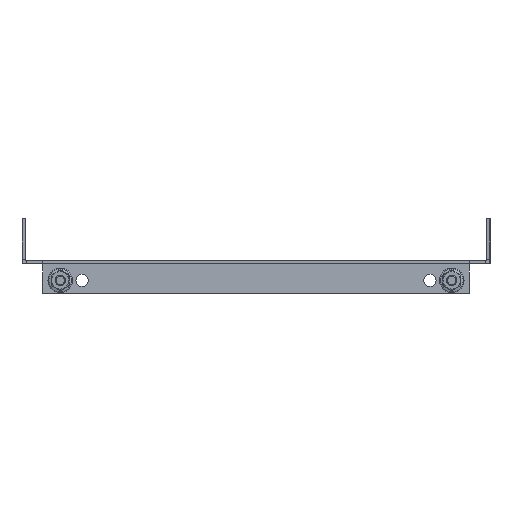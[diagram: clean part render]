
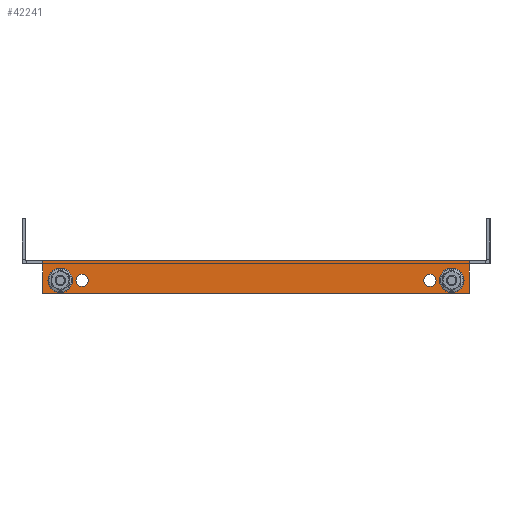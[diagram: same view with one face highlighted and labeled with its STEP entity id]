
A CAD part, left-side view. The second image highlights one B-rep face of the part: STEP entity #42241.
In plain terms, the highlighted planar face has unit normal (-1, 0, 0).
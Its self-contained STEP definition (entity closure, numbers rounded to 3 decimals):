
#28244 = VERTEX_POINT('',#28245);
#28245 = CARTESIAN_POINT('',(-350.,122.5,2.));
#28251 = EDGE_CURVE('',#28252,#28244,#28254,.T.);
#28252 = VERTEX_POINT('',#28253);
#28253 = CARTESIAN_POINT('',(-350.,-122.5,2.));
#28254 = LINE('',#28255,#28256);
#28255 = CARTESIAN_POINT('',(-350.,-132.5,2.));
#28256 = VECTOR('',#28257,1.);
#28257 = DIRECTION('',(-0.,1.,-0.));
#42120 = VERTEX_POINT('',#42121);
#42121 = CARTESIAN_POINT('',(-350.,-122.5,-0.6));
#42136 = EDGE_CURVE('',#42120,#28252,#42137,.T.);
#42137 = LINE('',#42138,#42139);
#42138 = CARTESIAN_POINT('',(-350.,-122.5,-0.6));
#42139 = VECTOR('',#42140,1.);
#42140 = DIRECTION('',(0.,-0.,1.));
#42160 = VERTEX_POINT('',#42161);
#42161 = CARTESIAN_POINT('',(-350.,122.5,-0.6));
#42167 = EDGE_CURVE('',#42160,#28244,#42168,.T.);
#42168 = LINE('',#42169,#42170);
#42169 = CARTESIAN_POINT('',(-350.,122.5,0.));
#42170 = VECTOR('',#42171,1.);
#42171 = DIRECTION('',(0.,0.,1.));
#42183 = EDGE_CURVE('',#42184,#42160,#42186,.T.);
#42184 = VERTEX_POINT('',#42185);
#42185 = CARTESIAN_POINT('',(-350.,122.5,-17.));
#42186 = LINE('',#42187,#42188);
#42187 = CARTESIAN_POINT('',(-350.,122.5,0.));
#42188 = VECTOR('',#42189,1.);
#42189 = DIRECTION('',(0.,-0.,1.));
#42223 = EDGE_CURVE('',#42120,#42224,#42226,.T.);
#42224 = VERTEX_POINT('',#42225);
#42225 = CARTESIAN_POINT('',(-350.,-122.5,-17.));
#42226 = LINE('',#42227,#42228);
#42227 = CARTESIAN_POINT('',(-350.,-122.5,-17.));
#42228 = VECTOR('',#42229,1.);
#42229 = DIRECTION('',(0.,0.,-1.));
#42241 = ADVANCED_FACE('',(#42242,#42262,#42282,#42293,#42304),#42317,
  .T.);
#42242 = FACE_BOUND('',#42243,.T.);
#42243 = EDGE_LOOP('',(#42244,#42255));
#42244 = ORIENTED_EDGE('',*,*,#42245,.F.);
#42245 = EDGE_CURVE('',#42246,#42248,#42250,.T.);
#42246 = VERTEX_POINT('',#42247);
#42247 = CARTESIAN_POINT('',(-350.,-112.5,-13.));
#42248 = VERTEX_POINT('',#42249);
#42249 = CARTESIAN_POINT('',(-350.,-112.5,-6.));
#42250 = CIRCLE('',#42251,3.5);
#42251 = AXIS2_PLACEMENT_3D('',#42252,#42253,#42254);
#42252 = CARTESIAN_POINT('',(-350.,-112.5,-9.5));
#42253 = DIRECTION('',(-1.,0.,0.));
#42254 = DIRECTION('',(0.,0.,-1.));
#42255 = ORIENTED_EDGE('',*,*,#42256,.F.);
#42256 = EDGE_CURVE('',#42248,#42246,#42257,.T.);
#42257 = CIRCLE('',#42258,3.5);
#42258 = AXIS2_PLACEMENT_3D('',#42259,#42260,#42261);
#42259 = CARTESIAN_POINT('',(-350.,-112.5,-9.5));
#42260 = DIRECTION('',(-1.,0.,0.));
#42261 = DIRECTION('',(0.,0.,-1.));
#42262 = FACE_BOUND('',#42263,.T.);
#42263 = EDGE_LOOP('',(#42264,#42275));
#42264 = ORIENTED_EDGE('',*,*,#42265,.F.);
#42265 = EDGE_CURVE('',#42266,#42268,#42270,.T.);
#42266 = VERTEX_POINT('',#42267);
#42267 = CARTESIAN_POINT('',(-350.,-100.,-13.));
#42268 = VERTEX_POINT('',#42269);
#42269 = CARTESIAN_POINT('',(-350.,-100.,-6.));
#42270 = CIRCLE('',#42271,3.5);
#42271 = AXIS2_PLACEMENT_3D('',#42272,#42273,#42274);
#42272 = CARTESIAN_POINT('',(-350.,-100.,-9.5));
#42273 = DIRECTION('',(-1.,0.,0.));
#42274 = DIRECTION('',(0.,0.,-1.));
#42275 = ORIENTED_EDGE('',*,*,#42276,.F.);
#42276 = EDGE_CURVE('',#42268,#42266,#42277,.T.);
#42277 = CIRCLE('',#42278,3.5);
#42278 = AXIS2_PLACEMENT_3D('',#42279,#42280,#42281);
#42279 = CARTESIAN_POINT('',(-350.,-100.,-9.5));
#42280 = DIRECTION('',(-1.,0.,0.));
#42281 = DIRECTION('',(0.,0.,-1.));
#42282 = FACE_BOUND('',#42283,.T.);
#42283 = EDGE_LOOP('',(#42284));
#42284 = ORIENTED_EDGE('',*,*,#42285,.F.);
#42285 = EDGE_CURVE('',#42286,#42286,#42288,.T.);
#42286 = VERTEX_POINT('',#42287);
#42287 = CARTESIAN_POINT('',(-350.,100.,-6.));
#42288 = CIRCLE('',#42289,3.5);
#42289 = AXIS2_PLACEMENT_3D('',#42290,#42291,#42292);
#42290 = CARTESIAN_POINT('',(-350.,100.,-9.5));
#42291 = DIRECTION('',(-1.,0.,0.));
#42292 = DIRECTION('',(0.,0.,1.));
#42293 = FACE_BOUND('',#42294,.T.);
#42294 = EDGE_LOOP('',(#42295));
#42295 = ORIENTED_EDGE('',*,*,#42296,.F.);
#42296 = EDGE_CURVE('',#42297,#42297,#42299,.T.);
#42297 = VERTEX_POINT('',#42298);
#42298 = CARTESIAN_POINT('',(-350.,112.5,-6.));
#42299 = CIRCLE('',#42300,3.5);
#42300 = AXIS2_PLACEMENT_3D('',#42301,#42302,#42303);
#42301 = CARTESIAN_POINT('',(-350.,112.5,-9.5));
#42302 = DIRECTION('',(-1.,0.,0.));
#42303 = DIRECTION('',(0.,0.,1.));
#42304 = FACE_BOUND('',#42305,.T.);
#42305 = EDGE_LOOP('',(#42306,#42307,#42308,#42309,#42310,#42311));
#42306 = ORIENTED_EDGE('',*,*,#42223,.F.);
#42307 = ORIENTED_EDGE('',*,*,#42136,.T.);
#42308 = ORIENTED_EDGE('',*,*,#28251,.T.);
#42309 = ORIENTED_EDGE('',*,*,#42167,.F.);
#42310 = ORIENTED_EDGE('',*,*,#42183,.F.);
#42311 = ORIENTED_EDGE('',*,*,#42312,.F.);
#42312 = EDGE_CURVE('',#42224,#42184,#42313,.T.);
#42313 = LINE('',#42314,#42315);
#42314 = CARTESIAN_POINT('',(-350.,122.5,-17.));
#42315 = VECTOR('',#42316,1.);
#42316 = DIRECTION('',(-0.,1.,-0.));
#42317 = PLANE('',#42318);
#42318 = AXIS2_PLACEMENT_3D('',#42319,#42320,#42321);
#42319 = CARTESIAN_POINT('',(-350.,122.5,0.));
#42320 = DIRECTION('',(-1.,0.,0.));
#42321 = DIRECTION('',(0.,0.,1.));
